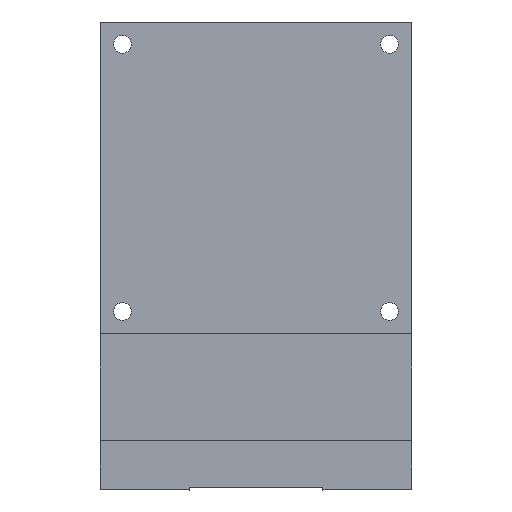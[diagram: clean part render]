
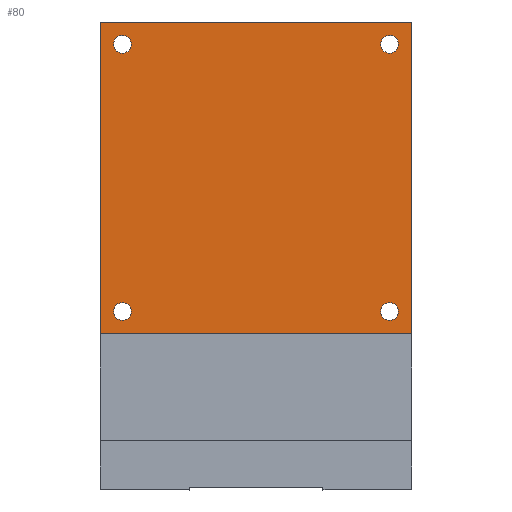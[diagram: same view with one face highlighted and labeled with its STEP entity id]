
A CAD part, top view. The second image highlights one B-rep face of the part: STEP entity #80.
In plain terms, the highlighted planar face has unit normal (0, 0, 1).
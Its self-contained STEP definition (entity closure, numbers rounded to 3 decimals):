
#80=ADVANCED_FACE('',(#279,#280,#281,#282,#283),#278,.T.);
#278=PLANE('',#1788);
#279=FACE_OUTER_BOUND('',#1789,.T.);
#280=FACE_BOUND('',#1790,.T.);
#281=FACE_BOUND('',#1791,.T.);
#282=FACE_BOUND('',#1792,.T.);
#283=FACE_BOUND('',#1793,.T.);
#1785=CARTESIAN_POINT('',(-42.,28.,14.));
#1786=DIRECTION('',(0.,0.,1.));
#1787=DIRECTION('',(1.,0.,0.));
#1788=AXIS2_PLACEMENT_3D('',#1785,#1786,#1787);
#1789=EDGE_LOOP('',(#2674,#2675,#2676,#2677));
#1790=EDGE_LOOP('',(#2678,#2679));
#1791=EDGE_LOOP('',(#2680,#2681));
#1792=EDGE_LOOP('',(#2682,#2683));
#1793=EDGE_LOOP('',(#2684,#2685));
#2674=ORIENTED_EDGE('',*,*,#3369,.F.);
#2675=ORIENTED_EDGE('',*,*,#3368,.F.);
#2676=ORIENTED_EDGE('',*,*,#3370,.T.);
#2677=ORIENTED_EDGE('',*,*,#3371,.T.);
#2678=ORIENTED_EDGE('',*,*,#3372,.T.);
#2679=ORIENTED_EDGE('',*,*,#3373,.T.);
#2680=ORIENTED_EDGE('',*,*,#3374,.T.);
#2681=ORIENTED_EDGE('',*,*,#3375,.T.);
#2682=ORIENTED_EDGE('',*,*,#3376,.T.);
#2683=ORIENTED_EDGE('',*,*,#3377,.T.);
#2684=ORIENTED_EDGE('',*,*,#3378,.T.);
#2685=ORIENTED_EDGE('',*,*,#3379,.T.);
#3368=EDGE_CURVE('',#3833,#3826,#3840,.T.);
#3369=EDGE_CURVE('',#3826,#3846,#3847,.T.);
#3370=EDGE_CURVE('',#3833,#3853,#3854,.T.);
#3371=EDGE_CURVE('',#3853,#3846,#3860,.T.);
#3372=EDGE_CURVE('',#3866,#3867,#3868,.T.);
#3373=EDGE_CURVE('',#3867,#3866,#3874,.T.);
#3374=EDGE_CURVE('',#3880,#3881,#3882,.T.);
#3375=EDGE_CURVE('',#3881,#3880,#3888,.T.);
#3376=EDGE_CURVE('',#3894,#3895,#3896,.T.);
#3377=EDGE_CURVE('',#3895,#3894,#3902,.T.);
#3378=EDGE_CURVE('',#3908,#3909,#3910,.T.);
#3379=EDGE_CURVE('',#3909,#3908,#3916,.T.);
#3826=VERTEX_POINT('',#6086);
#3833=VERTEX_POINT('',#6090);
#3840=LINE('',#6094,#6095);
#3846=VERTEX_POINT('',#6097);
#3847=LINE('',#6098,#6099);
#3853=VERTEX_POINT('',#6101);
#3854=LINE('',#6102,#6103);
#3860=LINE('',#6105,#6106);
#3866=VERTEX_POINT('',#6108);
#3867=VERTEX_POINT('',#6109);
#3868=CIRCLE('',#6113,2.);
#3874=CIRCLE('',#6117,2.);
#3880=VERTEX_POINT('',#6118);
#3881=VERTEX_POINT('',#6119);
#3882=CIRCLE('',#6123,2.);
#3888=CIRCLE('',#6127,2.);
#3894=VERTEX_POINT('',#6128);
#3895=VERTEX_POINT('',#6129);
#3896=CIRCLE('',#6133,2.);
#3902=CIRCLE('',#6137,2.);
#3908=VERTEX_POINT('',#6138);
#3909=VERTEX_POINT('',#6139);
#3910=CIRCLE('',#6143,2.);
#3916=CIRCLE('',#6147,2.);
#6086=CARTESIAN_POINT('',(35.,105.,14.));
#6090=CARTESIAN_POINT('',(-35.,105.,14.));
#6094=CARTESIAN_POINT('',(-35.,105.,14.));
#6095=VECTOR('',#6096,70.);
#6096=DIRECTION('',(1.,0.,0.));
#6097=CARTESIAN_POINT('',(35.,35.,14.));
#6098=CARTESIAN_POINT('',(35.,105.,14.));
#6099=VECTOR('',#6100,70.);
#6100=DIRECTION('',(0.,-1.,0.));
#6101=CARTESIAN_POINT('',(-35.,35.,14.));
#6102=CARTESIAN_POINT('',(-35.,105.,14.));
#6103=VECTOR('',#6104,70.);
#6104=DIRECTION('',(0.,-1.,0.));
#6105=CARTESIAN_POINT('',(-35.,35.,14.));
#6106=VECTOR('',#6107,70.);
#6107=DIRECTION('',(1.,0.,0.));
#6108=CARTESIAN_POINT('',(28.,40.,14.));
#6109=CARTESIAN_POINT('',(32.,40.,14.));
#6110=CARTESIAN_POINT('',(30.,40.,14.));
#6111=DIRECTION('',(0.,0.,-1.));
#6112=DIRECTION('',(-1.,0.,0.));
#6113=AXIS2_PLACEMENT_3D('',#6110,#6111,#6112);
#6114=CARTESIAN_POINT('',(30.,40.,14.));
#6115=DIRECTION('',(0.,0.,-1.));
#6116=DIRECTION('',(-1.,0.,0.));
#6117=AXIS2_PLACEMENT_3D('',#6114,#6115,#6116);
#6118=CARTESIAN_POINT('',(-32.,40.,14.));
#6119=CARTESIAN_POINT('',(-28.,40.,14.));
#6120=CARTESIAN_POINT('',(-30.,40.,14.));
#6121=DIRECTION('',(0.,0.,-1.));
#6122=DIRECTION('',(-1.,0.,0.));
#6123=AXIS2_PLACEMENT_3D('',#6120,#6121,#6122);
#6124=CARTESIAN_POINT('',(-30.,40.,14.));
#6125=DIRECTION('',(0.,0.,-1.));
#6126=DIRECTION('',(-1.,0.,0.));
#6127=AXIS2_PLACEMENT_3D('',#6124,#6125,#6126);
#6128=CARTESIAN_POINT('',(-32.,100.,14.));
#6129=CARTESIAN_POINT('',(-28.,100.,14.));
#6130=CARTESIAN_POINT('',(-30.,100.,14.));
#6131=DIRECTION('',(0.,0.,-1.));
#6132=DIRECTION('',(-1.,0.,0.));
#6133=AXIS2_PLACEMENT_3D('',#6130,#6131,#6132);
#6134=CARTESIAN_POINT('',(-30.,100.,14.));
#6135=DIRECTION('',(0.,0.,-1.));
#6136=DIRECTION('',(-1.,0.,0.));
#6137=AXIS2_PLACEMENT_3D('',#6134,#6135,#6136);
#6138=CARTESIAN_POINT('',(28.,100.,14.));
#6139=CARTESIAN_POINT('',(32.,100.,14.));
#6140=CARTESIAN_POINT('',(30.,100.,14.));
#6141=DIRECTION('',(0.,0.,-1.));
#6142=DIRECTION('',(-1.,0.,0.));
#6143=AXIS2_PLACEMENT_3D('',#6140,#6141,#6142);
#6144=CARTESIAN_POINT('',(30.,100.,14.));
#6145=DIRECTION('',(0.,0.,-1.));
#6146=DIRECTION('',(-1.,0.,0.));
#6147=AXIS2_PLACEMENT_3D('',#6144,#6145,#6146);
